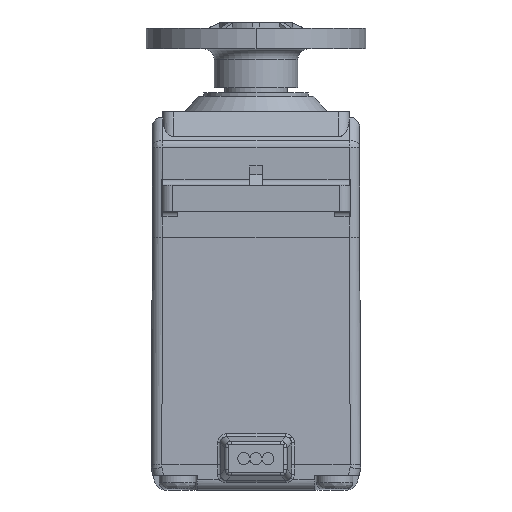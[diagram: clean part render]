
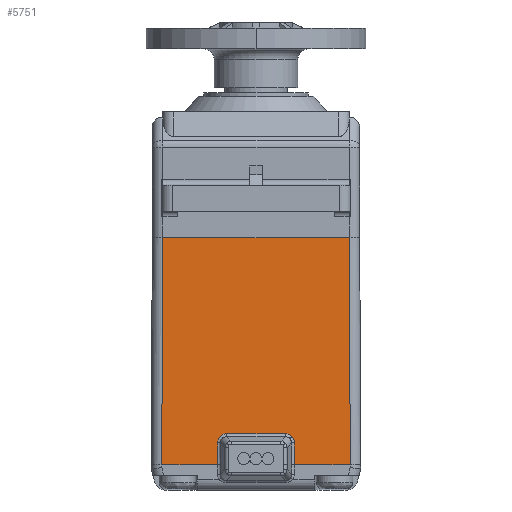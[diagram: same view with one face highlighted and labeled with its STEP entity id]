
A CAD part, front view. The second image highlights one B-rep face of the part: STEP entity #5751.
In plain terms, the highlighted planar face has unit normal (0, -1, 0.005).
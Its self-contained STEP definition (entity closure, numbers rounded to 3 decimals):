
#238 = VECTOR ( 'NONE', #7286, 1000. ) ;
#248 = CARTESIAN_POINT ( 'NONE',  ( 10., -10.4, -33.7 ) ) ;
#465 = EDGE_CURVE ( 'NONE', #1538, #11418, #3507, .T. ) ;
#486 = LINE ( 'NONE', #12269, #885 ) ;
#528 = CARTESIAN_POINT ( 'NONE',  ( 8.9, -10.3, -12. ) ) ;
#729 = EDGE_CURVE ( 'NONE', #1397, #1538, #2123, .T. ) ;
#776 = EDGE_CURVE ( 'NONE', #9297, #10888, #11836, .T. ) ;
#885 = VECTOR ( 'NONE', #5492, 1000. ) ;
#1166 = CARTESIAN_POINT ( 'NONE',  ( 2.86, -10.386, -30.732 ) ) ;
#1228 = EDGE_CURVE ( 'NONE', #1850, #9297, #1382, .T. ) ;
#1256 = CARTESIAN_POINT ( 'NONE',  ( -3.669, -10.39, -31.602 ) ) ;
#1382 =( BOUNDED_CURVE ( )  B_SPLINE_CURVE ( 3, ( #1256, #4220, #6981, #8154 ),
 .UNSPECIFIED., .F., .T. ) 
 B_SPLINE_CURVE_WITH_KNOTS ( ( 4, 4 ),
 ( 2.381, 3.884 ),
 .UNSPECIFIED. ) 
 CURVE ( )  GEOMETRIC_REPRESENTATION_ITEM ( )  RATIONAL_B_SPLINE_CURVE ( ( 1., 0.82, 0.82, 1. ) ) 
 REPRESENTATION_ITEM ( '' )  );
#1397 = VERTEX_POINT ( 'NONE', #12581 ) ;
#1430 = CARTESIAN_POINT ( 'NONE',  ( 3.669, -10.389, -31.36 ) ) ;
#1534 = VERTEX_POINT ( 'NONE', #9747 ) ;
#1538 = VERTEX_POINT ( 'NONE', #4639 ) ;
#1850 = VERTEX_POINT ( 'NONE', #4636 ) ;
#2123 = LINE ( 'NONE', #248, #2791 ) ;
#2198 = ORIENTED_EDGE ( 'NONE', *, *, #5493, .T. ) ;
#2458 = LINE ( 'NONE', #528, #238 ) ;
#2791 = VECTOR ( 'NONE', #4183, 1000. ) ;
#2829 = EDGE_CURVE ( 'NONE', #1397, #1850, #8563, .T. ) ;
#2831 = CARTESIAN_POINT ( 'NONE',  ( -3.666, -10.4, -33.717 ) ) ;
#2895 = VECTOR ( 'NONE', #3917, 1000. ) ;
#2972 =( BOUNDED_CURVE ( )  B_SPLINE_CURVE ( 3, ( #11622, #6662, #3529, #8679 ),
 .UNSPECIFIED., .F., .T. ) 
 B_SPLINE_CURVE_WITH_KNOTS ( ( 4, 4 ),
 ( 5.54, 6.283 ),
 .UNSPECIFIED. ) 
 CURVE ( )  GEOMETRIC_REPRESENTATION_ITEM ( )  RATIONAL_B_SPLINE_CURVE ( ( 1., 0.955, 0.955, 1. ) ) 
 REPRESENTATION_ITEM ( '' )  );
#3197 = DIRECTION ( 'NONE',  ( 0., 0.005, 1. ) ) ;
#3361 = CARTESIAN_POINT ( 'NONE',  ( 3.666, -10.4, -33.692 ) ) ;
#3507 = LINE ( 'NONE', #9386, #5442 ) ;
#3529 = CARTESIAN_POINT ( 'NONE',  ( 3.25, -10.387, -30.817 ) ) ;
#3917 = DIRECTION ( 'NONE',  ( -0.001, 0.005, 1. ) ) ;
#3949 = EDGE_CURVE ( 'NONE', #6309, #6665, #10477, .T. ) ;
#3958 = EDGE_CURVE ( 'NONE', #1534, #6124, #8800, .T. ) ;
#4021 = AXIS2_PLACEMENT_3D ( 'NONE', #11159, #5175, #3197 ) ;
#4183 = DIRECTION ( 'NONE',  ( -1., 0., 0. ) ) ;
#4220 = CARTESIAN_POINT ( 'NONE',  ( -3.669, -10.388, -31.085 ) ) ;
#4636 = CARTESIAN_POINT ( 'NONE',  ( -3.669, -10.39, -31.602 ) ) ;
#4639 = CARTESIAN_POINT ( 'NONE',  ( -9., -10.4, -33.7 ) ) ;
#4640 = CARTESIAN_POINT ( 'NONE',  ( 10., -10.4, -33.7 ) ) ;
#4709 = ORIENTED_EDGE ( 'NONE', *, *, #776, .T. ) ;
#4771 = VERTEX_POINT ( 'NONE', #6426 ) ;
#5007 = EDGE_LOOP ( 'NONE', ( #2198, #7648, #11128, #12154, #5379, #6036, #6820, #7727, #8000, #7868, #4709 ) ) ;
#5175 = DIRECTION ( 'NONE',  ( 0., 1., -0.005 ) ) ;
#5343 = CARTESIAN_POINT ( 'NONE',  ( 3.669, -10.39, -31.602 ) ) ;
#5379 = ORIENTED_EDGE ( 'NONE', *, *, #12179, .F. ) ;
#5442 = VECTOR ( 'NONE', #8397, 1000. ) ;
#5492 = DIRECTION ( 'NONE',  ( 1., 0., 0. ) ) ;
#5493 = EDGE_CURVE ( 'NONE', #10888, #1534, #2972, .T. ) ;
#5751 = ADVANCED_FACE ( 'NONE', ( #7310 ), #6091, .F. ) ;
#6036 = ORIENTED_EDGE ( 'NONE', *, *, #10202, .F. ) ;
#6065 = VECTOR ( 'NONE', #9029, 1000. ) ;
#6091 = PLANE ( 'NONE',  #4021 ) ;
#6124 = VERTEX_POINT ( 'NONE', #11792 ) ;
#6309 = VERTEX_POINT ( 'NONE', #9805 ) ;
#6426 = CARTESIAN_POINT ( 'NONE',  ( 8.9, -10.3, -12. ) ) ;
#6501 = CARTESIAN_POINT ( 'NONE',  ( -2.8, -10.386, -30.732 ) ) ;
#6509 = DIRECTION ( 'NONE',  ( -1., 0., 0. ) ) ;
#6662 = CARTESIAN_POINT ( 'NONE',  ( 3.036, -10.386, -30.732 ) ) ;
#6665 = VERTEX_POINT ( 'NONE', #9916 ) ;
#6820 = ORIENTED_EDGE ( 'NONE', *, *, #465, .F. ) ;
#6981 = CARTESIAN_POINT ( 'NONE',  ( -3.316, -10.386, -30.732 ) ) ;
#7286 = DIRECTION ( 'NONE',  ( 0.005, -0.005, -1. ) ) ;
#7310 = FACE_OUTER_BOUND ( 'NONE', #5007, .T. ) ;
#7604 = CARTESIAN_POINT ( 'NONE',  ( 3.412, -10.387, -30.977 ) ) ;
#7648 = ORIENTED_EDGE ( 'NONE', *, *, #3958, .T. ) ;
#7727 = ORIENTED_EDGE ( 'NONE', *, *, #729, .F. ) ;
#7868 = ORIENTED_EDGE ( 'NONE', *, *, #1228, .T. ) ;
#7937 = CARTESIAN_POINT ( 'NONE',  ( 2.8, -10.386, -30.732 ) ) ;
#8000 = ORIENTED_EDGE ( 'NONE', *, *, #2829, .T. ) ;
#8154 = CARTESIAN_POINT ( 'NONE',  ( -2.8, -10.386, -30.732 ) ) ;
#8397 = DIRECTION ( 'NONE',  ( 0.005, 0.005, 1. ) ) ;
#8563 = LINE ( 'NONE', #2831, #2895 ) ;
#8679 = CARTESIAN_POINT ( 'NONE',  ( 3.412, -10.387, -30.977 ) ) ;
#8800 =( BOUNDED_CURVE ( )  B_SPLINE_CURVE ( 3, ( #7604, #11589, #1430, #5343 ),
 .UNSPECIFIED., .F., .T. ) 
 B_SPLINE_CURVE_WITH_KNOTS ( ( 4, 4 ),
 ( 0., 0.761 ),
 .UNSPECIFIED. ) 
 CURVE ( )  GEOMETRIC_REPRESENTATION_ITEM ( )  RATIONAL_B_SPLINE_CURVE ( ( 1., 0.952, 0.952, 1. ) ) 
 REPRESENTATION_ITEM ( '' )  );
#9029 = DIRECTION ( 'NONE',  ( 1., 0., 0. ) ) ;
#9297 = VERTEX_POINT ( 'NONE', #6501 ) ;
#9369 = DIRECTION ( 'NONE',  ( -0.001, -0.005, -1. ) ) ;
#9386 = CARTESIAN_POINT ( 'NONE',  ( -9., -10.4, -33.7 ) ) ;
#9396 = CARTESIAN_POINT ( 'NONE',  ( -8.9, -10.3, -12. ) ) ;
#9747 = CARTESIAN_POINT ( 'NONE',  ( 3.412, -10.387, -30.977 ) ) ;
#9805 = CARTESIAN_POINT ( 'NONE',  ( 9., -10.4, -33.7 ) ) ;
#9916 = CARTESIAN_POINT ( 'NONE',  ( 3.666, -10.4, -33.7 ) ) ;
#10202 = EDGE_CURVE ( 'NONE', #11418, #4771, #486, .T. ) ;
#10477 = LINE ( 'NONE', #4640, #11155 ) ;
#10770 = VECTOR ( 'NONE', #9369, 1000. ) ;
#10888 = VERTEX_POINT ( 'NONE', #7937 ) ;
#11128 = ORIENTED_EDGE ( 'NONE', *, *, #12257, .T. ) ;
#11155 = VECTOR ( 'NONE', #6509, 1000. ) ;
#11159 = CARTESIAN_POINT ( 'NONE',  ( 10., -10.4, -33.7 ) ) ;
#11270 = LINE ( 'NONE', #3361, #10770 ) ;
#11418 = VERTEX_POINT ( 'NONE', #9396 ) ;
#11589 = CARTESIAN_POINT ( 'NONE',  ( 3.579, -10.388, -31.141 ) ) ;
#11622 = CARTESIAN_POINT ( 'NONE',  ( 2.8, -10.386, -30.732 ) ) ;
#11792 = CARTESIAN_POINT ( 'NONE',  ( 3.669, -10.39, -31.602 ) ) ;
#11836 = LINE ( 'NONE', #1166, #6065 ) ;
#12154 = ORIENTED_EDGE ( 'NONE', *, *, #3949, .F. ) ;
#12179 = EDGE_CURVE ( 'NONE', #4771, #6309, #2458, .T. ) ;
#12257 = EDGE_CURVE ( 'NONE', #6124, #6665, #11270, .T. ) ;
#12269 = CARTESIAN_POINT ( 'NONE',  ( 10., -10.3, -12. ) ) ;
#12581 = CARTESIAN_POINT ( 'NONE',  ( -3.666, -10.4, -33.7 ) ) ;
